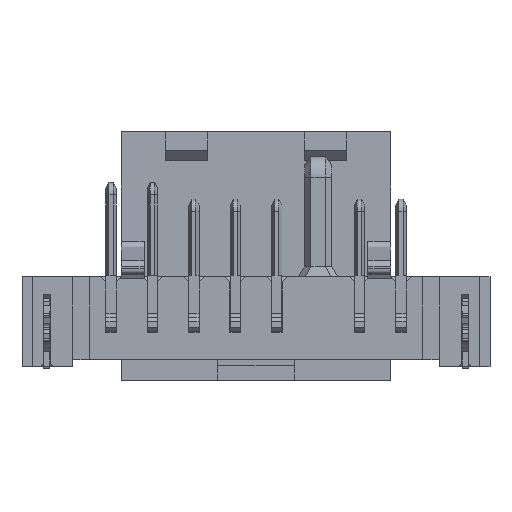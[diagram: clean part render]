
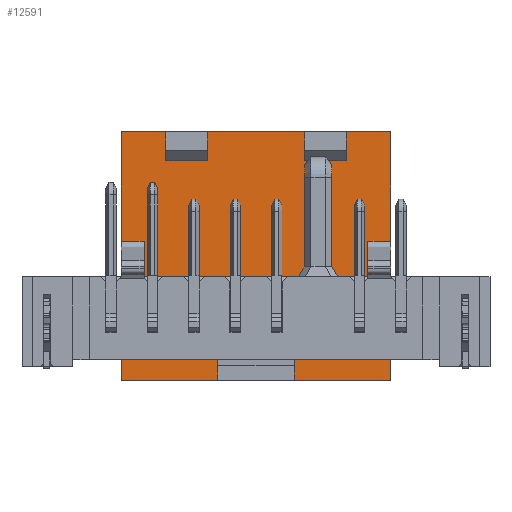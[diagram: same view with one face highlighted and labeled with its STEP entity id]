
A CAD part, front view. The second image highlights one B-rep face of the part: STEP entity #12591.
In plain terms, the highlighted planar face has unit normal (0, -1, 0).
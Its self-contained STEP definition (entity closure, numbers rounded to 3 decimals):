
#11856=DIRECTION('',(1.,0.,0.));
#11857=VECTOR('',#11856,2.);
#11858=CARTESIAN_POINT('',(2.35,-0.5,4.6));
#11859=LINE('',#11858,#11857);
#11860=DIRECTION('',(1.,0.,0.));
#11861=VECTOR('',#11860,2.15);
#11862=CARTESIAN_POINT('',(4.35,-0.5,6.));
#11863=LINE('',#11862,#11861);
#11864=DIRECTION('',(0.,0.,-1.));
#11865=VECTOR('',#11864,5.287);
#11866=CARTESIAN_POINT('',(6.5,-0.5,6.));
#11867=LINE('',#11866,#11865);
#11868=DIRECTION('',(1.,0.,0.));
#11869=VECTOR('',#11868,1.1);
#11870=CARTESIAN_POINT('',(5.4,-0.5,0.713));
#11871=LINE('',#11870,#11869);
#11872=DIRECTION('',(0.,0.,-1.));
#11873=VECTOR('',#11872,1.754);
#11874=CARTESIAN_POINT('',(5.4,-0.5,0.713));
#11875=LINE('',#11874,#11873);
#11876=DIRECTION('',(1.,0.,0.));
#11877=VECTOR('',#11876,1.1);
#11878=CARTESIAN_POINT('',(5.4,-0.5,-1.042));
#11879=LINE('',#11878,#11877);
#11880=DIRECTION('',(0.,0.,-1.));
#11881=VECTOR('',#11880,4.958);
#11882=CARTESIAN_POINT('',(6.5,-0.5,-1.042));
#11883=LINE('',#11882,#11881);
#11884=DIRECTION('',(-1.,0.,0.));
#11885=VECTOR('',#11884,4.65);
#11886=CARTESIAN_POINT('',(6.5,-0.5,-6.));
#11887=LINE('',#11886,#11885);
#11888=DIRECTION('',(0.,0.,1.));
#11889=VECTOR('',#11888,1.);
#11890=CARTESIAN_POINT('',(1.85,-0.5,-6.));
#11891=LINE('',#11890,#11889);
#11892=DIRECTION('',(-1.,0.,0.));
#11893=VECTOR('',#11892,3.7);
#11894=CARTESIAN_POINT('',(1.85,-0.5,-5.));
#11895=LINE('',#11894,#11893);
#11896=DIRECTION('',(0.,0.,1.));
#11897=VECTOR('',#11896,1.);
#11898=CARTESIAN_POINT('',(-1.85,-0.5,-6.));
#11899=LINE('',#11898,#11897);
#11900=DIRECTION('',(-1.,0.,0.));
#11901=VECTOR('',#11900,4.65);
#11902=CARTESIAN_POINT('',(-1.85,-0.5,-6.));
#11903=LINE('',#11902,#11901);
#11904=DIRECTION('',(0.,0.,1.));
#11905=VECTOR('',#11904,4.958);
#11906=CARTESIAN_POINT('',(-6.5,-0.5,-6.));
#11907=LINE('',#11906,#11905);
#11908=DIRECTION('',(1.,0.,0.));
#11909=VECTOR('',#11908,1.1);
#11910=CARTESIAN_POINT('',(-6.5,-0.5,-1.042));
#11911=LINE('',#11910,#11909);
#11912=DIRECTION('',(0.,0.,-1.));
#11913=VECTOR('',#11912,1.754);
#11914=CARTESIAN_POINT('',(-5.4,-0.5,0.713));
#11915=LINE('',#11914,#11913);
#11916=DIRECTION('',(1.,0.,0.));
#11917=VECTOR('',#11916,1.1);
#11918=CARTESIAN_POINT('',(-6.5,-0.5,0.713));
#11919=LINE('',#11918,#11917);
#11920=DIRECTION('',(0.,0.,1.));
#11921=VECTOR('',#11920,5.287);
#11922=CARTESIAN_POINT('',(-6.5,-0.5,0.713));
#11923=LINE('',#11922,#11921);
#11924=DIRECTION('',(1.,0.,0.));
#11925=VECTOR('',#11924,2.15);
#11926=CARTESIAN_POINT('',(-6.5,-0.5,6.));
#11927=LINE('',#11926,#11925);
#11928=DIRECTION('',(1.,0.,0.));
#11929=VECTOR('',#11928,2.);
#11930=CARTESIAN_POINT('',(-4.35,-0.5,4.6));
#11931=LINE('',#11930,#11929);
#11932=DIRECTION('',(1.,0.,0.));
#11933=VECTOR('',#11932,4.7);
#11934=CARTESIAN_POINT('',(-2.35,-0.5,6.));
#11935=LINE('',#11934,#11933);
#11944=DIRECTION('',(0.,0.,1.));
#11945=VECTOR('',#11944,1.4);
#11946=CARTESIAN_POINT('',(2.35,-0.5,4.6));
#11947=LINE('',#11946,#11945);
#11992=DIRECTION('',(0.,0.,1.));
#11993=VECTOR('',#11992,1.4);
#11994=CARTESIAN_POINT('',(-4.35,-0.5,4.6));
#11995=LINE('',#11994,#11993);
#12016=DIRECTION('',(0.,0.,-1.));
#12017=VECTOR('',#12016,1.4);
#12018=CARTESIAN_POINT('',(-2.35,-0.5,6.));
#12019=LINE('',#12018,#12017);
#12036=DIRECTION('',(0.,0.,-1.));
#12037=VECTOR('',#12036,1.4);
#12038=CARTESIAN_POINT('',(4.35,-0.5,6.));
#12039=LINE('',#12038,#12037);
#12380=CARTESIAN_POINT('',(-6.5,-0.5,-6.));
#12381=VERTEX_POINT('',#12380);
#12382=CARTESIAN_POINT('',(-6.5,-0.5,6.));
#12383=VERTEX_POINT('',#12382);
#12384=CARTESIAN_POINT('',(6.5,-0.5,6.));
#12385=VERTEX_POINT('',#12384);
#12386=CARTESIAN_POINT('',(6.5,-0.5,-6.));
#12387=VERTEX_POINT('',#12386);
#12396=CARTESIAN_POINT('',(-4.35,-0.5,6.));
#12397=VERTEX_POINT('',#12396);
#12398=CARTESIAN_POINT('',(-2.35,-0.5,6.));
#12399=CARTESIAN_POINT('',(2.35,-0.5,6.));
#12400=VERTEX_POINT('',#12398);
#12401=VERTEX_POINT('',#12399);
#12402=CARTESIAN_POINT('',(4.35,-0.5,6.));
#12403=VERTEX_POINT('',#12402);
#12408=CARTESIAN_POINT('',(1.85,-0.5,-6.));
#12409=CARTESIAN_POINT('',(1.85,-0.5,-5.));
#12410=VERTEX_POINT('',#12408);
#12411=VERTEX_POINT('',#12409);
#12412=CARTESIAN_POINT('',(-1.85,-0.5,-5.));
#12413=VERTEX_POINT('',#12412);
#12414=CARTESIAN_POINT('',(-1.85,-0.5,-6.));
#12415=VERTEX_POINT('',#12414);
#12468=CARTESIAN_POINT('',(5.4,-0.5,0.713));
#12469=CARTESIAN_POINT('',(5.4,-0.5,-1.042));
#12470=VERTEX_POINT('',#12468);
#12471=VERTEX_POINT('',#12469);
#12472=CARTESIAN_POINT('',(6.5,-0.5,-1.042));
#12473=VERTEX_POINT('',#12472);
#12474=CARTESIAN_POINT('',(6.5,-0.5,0.713));
#12475=VERTEX_POINT('',#12474);
#12512=CARTESIAN_POINT('',(-6.5,-0.5,-1.042));
#12513=VERTEX_POINT('',#12512);
#12514=CARTESIAN_POINT('',(-6.5,-0.5,0.713));
#12515=VERTEX_POINT('',#12514);
#12516=CARTESIAN_POINT('',(-5.4,-0.5,-1.042));
#12517=VERTEX_POINT('',#12516);
#12518=CARTESIAN_POINT('',(-5.4,-0.5,0.713));
#12519=VERTEX_POINT('',#12518);
#12520=CARTESIAN_POINT('',(2.35,-0.5,4.6));
#12521=CARTESIAN_POINT('',(4.35,-0.5,4.6));
#12522=VERTEX_POINT('',#12520);
#12523=VERTEX_POINT('',#12521);
#12528=CARTESIAN_POINT('',(-4.35,-0.5,4.6));
#12529=CARTESIAN_POINT('',(-2.35,-0.5,4.6));
#12530=VERTEX_POINT('',#12528);
#12531=VERTEX_POINT('',#12529);
#12536=CARTESIAN_POINT('',(0.,-0.5,0.));
#12537=DIRECTION('',(0.,1.,0.));
#12538=DIRECTION('',(1.,0.,0.));
#12539=AXIS2_PLACEMENT_3D('',#12536,#12537,#12538);
#12540=PLANE('',#12539);
#12542=ORIENTED_EDGE('',*,*,#12541,.T.);
#12544=ORIENTED_EDGE('',*,*,#12543,.F.);
#12546=ORIENTED_EDGE('',*,*,#12545,.T.);
#12548=ORIENTED_EDGE('',*,*,#12547,.T.);
#12550=ORIENTED_EDGE('',*,*,#12549,.F.);
#12552=ORIENTED_EDGE('',*,*,#12551,.T.);
#12554=ORIENTED_EDGE('',*,*,#12553,.T.);
#12556=ORIENTED_EDGE('',*,*,#12555,.T.);
#12558=ORIENTED_EDGE('',*,*,#12557,.T.);
#12560=ORIENTED_EDGE('',*,*,#12559,.T.);
#12562=ORIENTED_EDGE('',*,*,#12561,.T.);
#12564=ORIENTED_EDGE('',*,*,#12563,.F.);
#12566=ORIENTED_EDGE('',*,*,#12565,.T.);
#12568=ORIENTED_EDGE('',*,*,#12567,.T.);
#12570=ORIENTED_EDGE('',*,*,#12569,.T.);
#12572=ORIENTED_EDGE('',*,*,#12571,.F.);
#12574=ORIENTED_EDGE('',*,*,#12573,.F.);
#12576=ORIENTED_EDGE('',*,*,#12575,.T.);
#12578=ORIENTED_EDGE('',*,*,#12577,.T.);
#12580=ORIENTED_EDGE('',*,*,#12579,.F.);
#12582=ORIENTED_EDGE('',*,*,#12581,.T.);
#12584=ORIENTED_EDGE('',*,*,#12583,.F.);
#12586=ORIENTED_EDGE('',*,*,#12585,.T.);
#12588=ORIENTED_EDGE('',*,*,#12587,.F.);
#12589=EDGE_LOOP('',(#12542,#12544,#12546,#12548,#12550,#12552,#12554,#12556,
#12558,#12560,#12562,#12564,#12566,#12568,#12570,#12572,#12574,#12576,#12578,
#12580,#12582,#12584,#12586,#12588));
#12590=FACE_OUTER_BOUND('',#12589,.F.);
#12541=EDGE_CURVE('',#12522,#12523,#11859,.T.);
#12543=EDGE_CURVE('',#12403,#12523,#12039,.T.);
#12545=EDGE_CURVE('',#12403,#12385,#11863,.T.);
#12547=EDGE_CURVE('',#12385,#12475,#11867,.T.);
#12549=EDGE_CURVE('',#12470,#12475,#11871,.T.);
#12551=EDGE_CURVE('',#12470,#12471,#11875,.T.);
#12553=EDGE_CURVE('',#12471,#12473,#11879,.T.);
#12555=EDGE_CURVE('',#12473,#12387,#11883,.T.);
#12557=EDGE_CURVE('',#12387,#12410,#11887,.T.);
#12559=EDGE_CURVE('',#12410,#12411,#11891,.T.);
#12561=EDGE_CURVE('',#12411,#12413,#11895,.T.);
#12563=EDGE_CURVE('',#12415,#12413,#11899,.T.);
#12565=EDGE_CURVE('',#12415,#12381,#11903,.T.);
#12567=EDGE_CURVE('',#12381,#12513,#11907,.T.);
#12569=EDGE_CURVE('',#12513,#12517,#11911,.T.);
#12571=EDGE_CURVE('',#12519,#12517,#11915,.T.);
#12573=EDGE_CURVE('',#12515,#12519,#11919,.T.);
#12575=EDGE_CURVE('',#12515,#12383,#11923,.T.);
#12577=EDGE_CURVE('',#12383,#12397,#11927,.T.);
#12579=EDGE_CURVE('',#12530,#12397,#11995,.T.);
#12581=EDGE_CURVE('',#12530,#12531,#11931,.T.);
#12583=EDGE_CURVE('',#12400,#12531,#12019,.T.);
#12585=EDGE_CURVE('',#12400,#12401,#11935,.T.);
#12587=EDGE_CURVE('',#12522,#12401,#11947,.T.);
#12591=ADVANCED_FACE('',(#12590),#12540,.F.);
